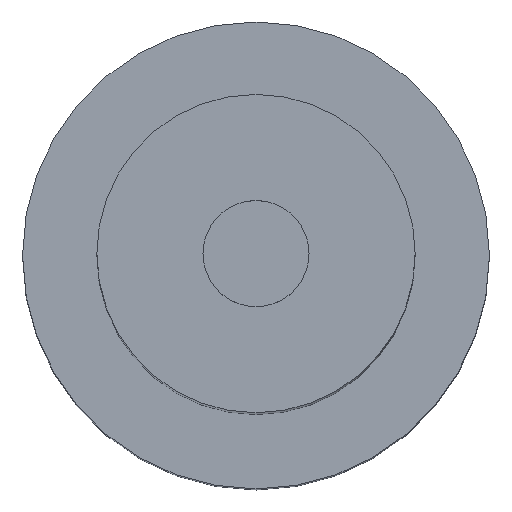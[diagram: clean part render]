
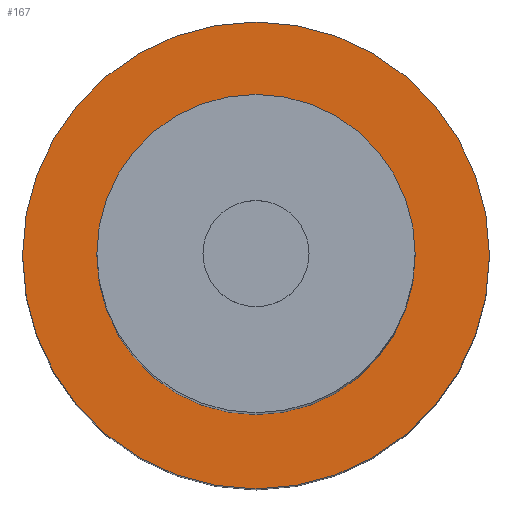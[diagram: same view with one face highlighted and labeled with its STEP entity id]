
A CAD part, top view. The second image highlights one B-rep face of the part: STEP entity #167.
In plain terms, the highlighted planar face has unit normal (0, 0, 1) as drawn and (-1, 0, 0) by its records, which use the part's own axes.
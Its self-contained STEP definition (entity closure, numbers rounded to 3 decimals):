
#78 = VERTEX_POINT ( 'NONE', #271 ) ;
#109 = EDGE_CURVE ( 'NONE', #184, #78, #324, .T. ) ;
#153 = EDGE_CURVE ( 'NONE', #189, #195, #348, .T. ) ;
#154 = EDGE_LOOP ( 'NONE', ( #168, #156 ) ) ;
#155 = EDGE_LOOP ( 'NONE', ( #172, #158 ) ) ;
#156 = ORIENTED_EDGE ( 'NONE', *, *, #188, .T. ) ;
#157 = EDGE_CURVE ( 'NONE', #78, #184, #343, .T. ) ;
#158 = ORIENTED_EDGE ( 'NONE', *, *, #157, .F. ) ;
#167 = ADVANCED_FACE ( 'NONE', ( #315, #310 ), #309, .F. ) ;
#168 = ORIENTED_EDGE ( 'NONE', *, *, #153, .T. ) ;
#172 = ORIENTED_EDGE ( 'NONE', *, *, #109, .F. ) ;
#184 = VERTEX_POINT ( 'NONE', #417 ) ;
#188 = EDGE_CURVE ( 'NONE', #195, #189, #423, .T. ) ;
#189 = VERTEX_POINT ( 'NONE', #418 ) ;
#195 = VERTEX_POINT ( 'NONE', #468 ) ;
#271 = CARTESIAN_POINT ( 'NONE',  ( 5., 0., -1.1 ) ) ;
#309 = PLANE ( 'NONE',  #416 ) ;
#310 = FACE_BOUND ( 'NONE', #154, .T. ) ;
#315 = FACE_OUTER_BOUND ( 'NONE', #155, .T. ) ;
#318 = DIRECTION ( 'NONE',  ( 0., 0., -1. ) ) ;
#319 = DIRECTION ( 'NONE',  ( 1., 0., 0. ) ) ;
#320 = DIRECTION ( 'NONE',  ( 0., 0., -1. ) ) ;
#321 = DIRECTION ( 'NONE',  ( 1., 0., 0. ) ) ;
#322 = CARTESIAN_POINT ( 'NONE',  ( 5., 0., 0. ) ) ;
#323 = AXIS2_PLACEMENT_3D ( 'NONE', #322, #321, #320 ) ;
#324 = CIRCLE ( 'NONE', #323, 1.1 ) ;
#341 = CARTESIAN_POINT ( 'NONE',  ( 5., 0., 0. ) ) ;
#342 = AXIS2_PLACEMENT_3D ( 'NONE', #341, #319, #318 ) ;
#343 = CIRCLE ( 'NONE', #342, 1.1 ) ;
#344 = DIRECTION ( 'NONE',  ( 0., 0., -1. ) ) ;
#345 = DIRECTION ( 'NONE',  ( 1., 0., 0. ) ) ;
#346 = CARTESIAN_POINT ( 'NONE',  ( 5., 0., 0. ) ) ;
#347 = AXIS2_PLACEMENT_3D ( 'NONE', #346, #345, #344 ) ;
#348 = CIRCLE ( 'NONE', #347, 0.75 ) ;
#413 = DIRECTION ( 'NONE',  ( 0., 0., -1. ) ) ;
#414 = DIRECTION ( 'NONE',  ( 1., 0., 0. ) ) ;
#415 = CARTESIAN_POINT ( 'NONE',  ( 5., 0., 0. ) ) ;
#416 = AXIS2_PLACEMENT_3D ( 'NONE', #415, #414, #413 ) ;
#417 = CARTESIAN_POINT ( 'NONE',  ( 5., 0., 1.1 ) ) ;
#418 = CARTESIAN_POINT ( 'NONE',  ( 5., 0., 0.75 ) ) ;
#419 = DIRECTION ( 'NONE',  ( 0., 0., -1. ) ) ;
#420 = DIRECTION ( 'NONE',  ( 1., 0., 0. ) ) ;
#421 = CARTESIAN_POINT ( 'NONE',  ( 5., 0., 0. ) ) ;
#422 = AXIS2_PLACEMENT_3D ( 'NONE', #421, #420, #419 ) ;
#423 = CIRCLE ( 'NONE', #422, 0.75 ) ;
#468 = CARTESIAN_POINT ( 'NONE',  ( 5., 0., -0.75 ) ) ;
